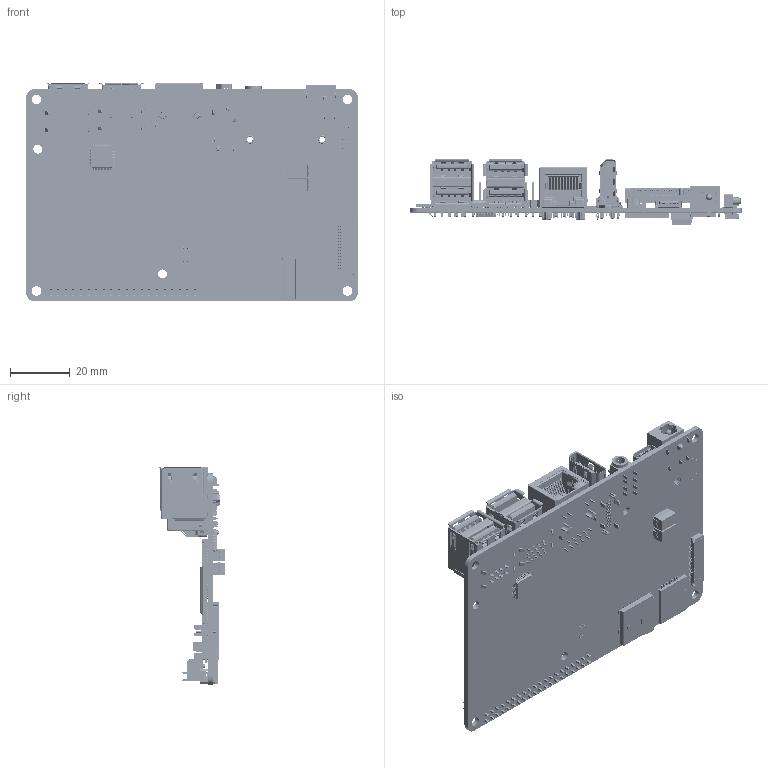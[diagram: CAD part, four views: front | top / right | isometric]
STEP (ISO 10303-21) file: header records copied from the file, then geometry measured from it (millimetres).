
FILE_DESCRIPTION (( 'STEP AP214' ), '1' );
FILE_NAME ('LubanCat-Hi3403_EBF410632V1R0_20260324.STEP', '2026-04-07T09:01:09', ( '' ), ( '' ), 'SwSTEP 2.0', 'SolidWorks 2023', '' );
FILE_SCHEMA (( 'AUTOMOTIVE_DESIGN' ));
Length unit declared in the file: millimetre
Products named in the file (28): 轻触开关4.5_4.5_5.5; Type-C 16P; 创都1.25T-2A; SD卡座子; HY911130A; FPC连接器 针脚数30 间距0.5mm 高度2.0mm 下接 卧贴 翻盖式; USB3.0+2.0卷边座子 零件; eMMC-64G; 2.54mm 2x20P 直插 方针; ZH 2P 插件1.5MM; SD3403; SIM卡mini; 72r3759_2007435; FE2.1-CQFP48A; 侧贴LED红; ufl天线座子; 新型DC接口 DC044A; M2X4; LubanCat-Hi3403_EBF410632V1R0_20260324; MINI PCIE 52P WIFI模块插座; 耳机座子插件; 晶存10x15 SDRAM; TL8800DLUA板图; 板图; 10TPB220M; USB2.0双层卷边907-111A1012D10200; RTL8211F-CG; 侧贴LED绿
Assembly tree (34 placements, depth 2):
  LubanCat-Hi3403_EBF410632V1R0_20260324
    板图
    HY911130A
    USB2.0双层卷边907-111A1012D10200
    USB3.0+2.0卷边座子 零件
    72r3759_2007435
    耳机座子插件
    Type-C 16P
    新型DC接口 DC044A
    轻触开关4.5_4.5_5.5  x2
    FPC连接器 针脚数30 间距0.5mm 高度2.0mm 下接 卧贴 翻盖式  x3
    2.54mm 2x20P 直插 方针
    MINI PCIE 52P WIFI模块插座
    侧贴LED红
    侧贴LED绿
    ufl天线座子  x2
    M2X4  x2
    晶存10x15 SDRAM  x2
    eMMC-64G
    RTL8211F-CG
    创都1.25T-2A
    ZH 2P 插件1.5MM
    SD卡座子
    SIM卡mini
    FE2.1-CQFP48A
    10TPB220M  x2
    SD3403
    TL8800DLUA板图
Bounding box: 111 x 22.23 x 73.2 mm (x, y, z)
Volume: 26262.2 mm3; surface area: 47834.6 mm2
Topology: 636 solids, 636 shells, 19122 faces, 53841 edges, 33652 vertices
Faces by surface type: plane 11724, cylinder 3673, bspline 3633, cone 62, torus 24, sphere 6
Entity records: 514693 total; most frequent: CARTESIAN_POINT 157398, ORIENTED_EDGE 79016, DIRECTION 63812, EDGE_CURVE 39508, LINE 26706, VECTOR 26706, VERTEX_POINT 25767, AXIS2_PLACEMENT_3D 18553
